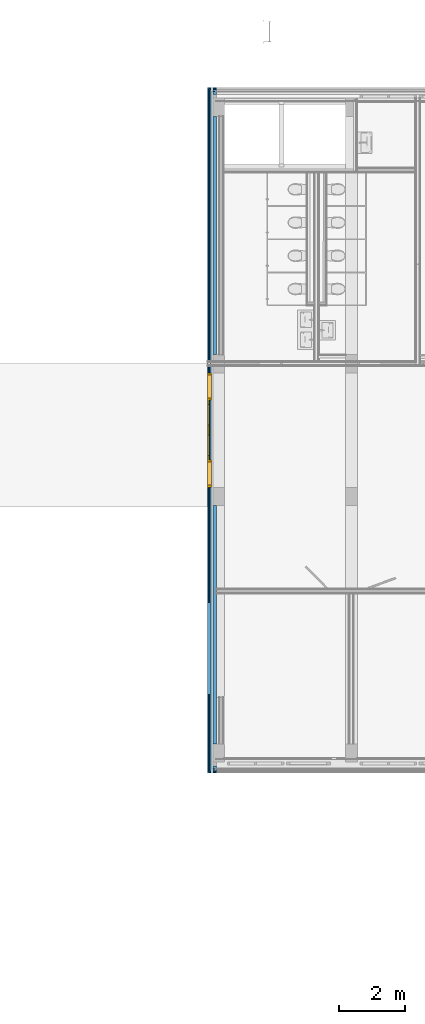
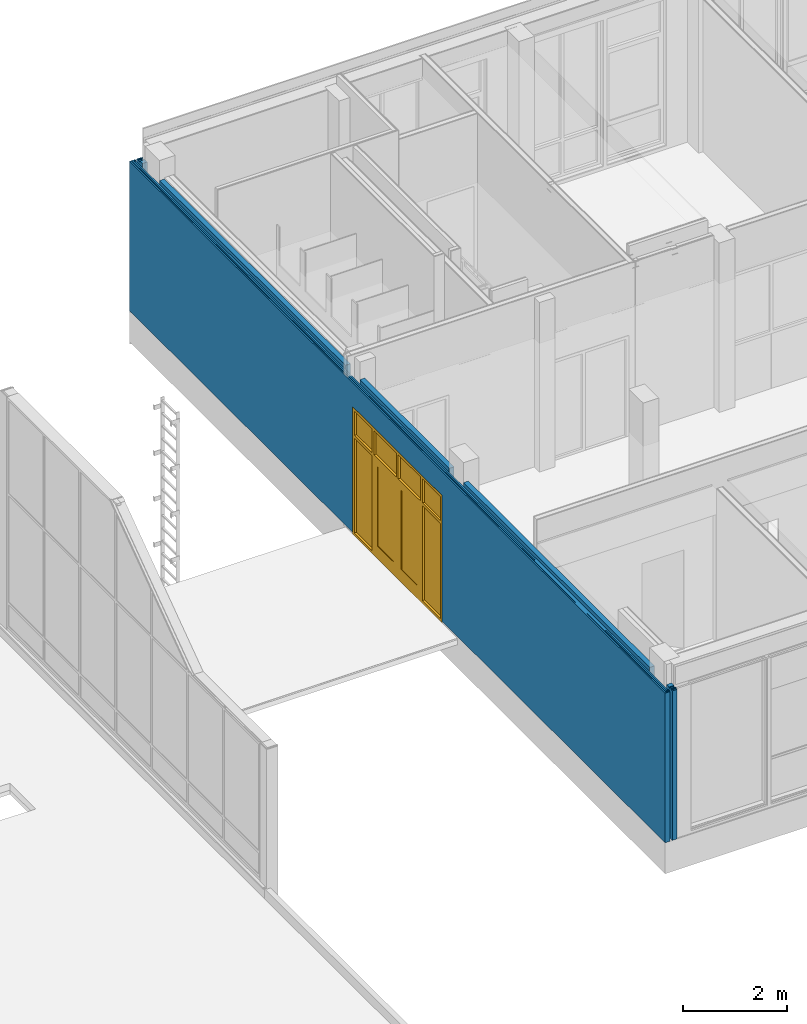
# One storey, part 37 of 54: 2 building element parts, 1 door, 1 opening, 1 element without a shape of its own.
"""IFC2X3 building model written with IfcOpenShell, lengths in millimetres."""

from ifc_helpers import new_model, entity, si_unit, converted_unit, derived_unit, money_unit, direction, frame, origin_with_axes, place, context, subcontext, project, spatial, open_shell, faceted_brep, surface_model, material, type_object, element, fill, aggregate, save


model = new_model("IFC2X3")

# Units and contexts
model_context = context("Model", 3, precision=0.01, world=origin_with_axes(), true_north=direction((0.0, 1.0)))
body_context = subcontext(model_context, "Body", "Model", "MODEL_VIEW")
ifc_project = project(units=[si_unit("LENGTHUNIT", "METRE", prefix="MILLI"), si_unit("AREAUNIT", "SQUARE_METRE"), si_unit("VOLUMEUNIT", "CUBIC_METRE"), converted_unit("PLANEANGLEUNIT", "DEGREE", entity("IfcPlaneAngleMeasure", 0.0174532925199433), si_unit("PLANEANGLEUNIT", "RADIAN"), dimensions=[0, 0, 0, 0, 0, 0, 0]), money_unit("EUR"), converted_unit("TIMEUNIT", "Year", entity("IfcTimeMeasure", 31557600.0), si_unit("TIMEUNIT", "SECOND"), dimensions=[0, 0, 1, 0, 0, 0, 0]), si_unit("MASSUNIT", "GRAM", prefix="KILO"), si_unit("THERMODYNAMICTEMPERATUREUNIT", "DEGREE_CELSIUS"), si_unit("LUMINOUSINTENSITYUNIT", "LUMEN"), si_unit("ENERGYUNIT", "JOULE", prefix="MEGA"), derived_unit("THERMALCONDUCTANCEUNIT", [(si_unit("POWERUNIT", "WATT"), 1), (si_unit("LENGTHUNIT", "METRE"), -1), (si_unit("THERMODYNAMICTEMPERATUREUNIT", "KELVIN"), -1)]), derived_unit("SPECIFICHEATCAPACITYUNIT", [(si_unit("ENERGYUNIT", "JOULE"), 1), (si_unit("MASSUNIT", "GRAM", prefix="KILO"), -1), (si_unit("THERMODYNAMICTEMPERATUREUNIT", "KELVIN"), -1)]), derived_unit("MASSDENSITYUNIT", [(si_unit("MASSUNIT", "GRAM", prefix="KILO"), 1), (si_unit("VOLUMEUNIT", "CUBIC_METRE"), -1)])], contexts=[model_context])

# Site, building, storey
site_placement = place(None, origin_with_axes())
site = spatial("IfcSite", under=ifc_project, at=site_placement, Name="<site naam>", CompositionType="ELEMENT")
building_placement = place(site_placement, origin_with_axes())
building = spatial("IfcBuilding", under=site, at=building_placement, Name="<Naam gebouw>", CompositionType="ELEMENT")
storey_placement = place(building_placement, frame((0.0, 0.0, 8500.0), z_axis=(0.0, 0.0, 1.0), x_axis=(1.0, 0.0, 0.0)))
storey = spatial("IfcBuildingStorey", under=building, at=storey_placement, Name="02 2e verdieping", CompositionType="ELEMENT", Elevation=8500.0)

# Door
door_style = type_object("IfcDoorStyle", Name="D2 bl zl2 27", ConstructionType="NOTDEFINED", OperationType="USERDEFINED", ParameterTakesPrecedence=False, Sizeable=False)
wall_placement = place(storey_placement, frame((11665.00000000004, 20324.99999757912, 0.0), z_axis=(0.0, 0.0, 1.0), x_axis=(0.0, -1.0, 0.0)))
opening_placement = place(wall_placement, frame((10324.99999757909, 0.0, 0.0), z_axis=(0.0, 0.0, 1.0), x_axis=(1.0, 0.0, 0.0)))
door_placement = place(opening_placement, frame((1724.999999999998, 0.0, 0.0), z_axis=(0.0, 0.0, 1.0), x_axis=(-1.0, 0.0, 0.0)))
door = element("IfcDoor", 1, at=door_placement, inside=storey, type_object=door_style, Name="21_BI-D-06_305", ObjectType="DOOR", OverallHeight=3000.0, OverallWidth=3450.0, context=body_context, shape_type="SurfaceModel", body=[
    faceted_brep([(0.0, 0.0, 0.0), (67.00000000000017, 0.0, 0.0), (67.00000000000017, -113.999999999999, 0.0), (0.0, -113.999999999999, 0.0), (0.0, 0.0, 2933.0), (67.00000000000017, 0.0, 2933.0), (67.00000000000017, 0.0, 2367.000000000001), (67.00000000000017, 0.0, 2300.000000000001), (67.00000000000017, 0.0, 67.00000000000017), (67.00000000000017, -113.999999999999, 67.00000000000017), (67.00000000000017, -113.999999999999, 2300.000000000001), (67.00000000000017, -113.999999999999, 2367.000000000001), (67.00000000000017, -113.999999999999, 2933.0), (0.0, -113.999999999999, 2933.0)], [[[0, 1, 2, 3]], [[0, 4, 5, 6, 7, 8, 1]], [[1, 8, 9, 2]], [[3, 2, 9, 10, 11, 12, 13]], [[4, 0, 3, 13]], [[5, 4, 13, 12]], [[6, 5, 12, 11]], [[7, 6, 11, 10]], [[8, 7, 10, 9]]]),
    faceted_brep([(824.9999999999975, -39.99999999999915, 2317.0), (824.9999999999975, 0.0, 2317.0), (824.9999999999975, 0.0, 2367.000000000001), (824.9999999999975, -113.999999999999, 2367.000000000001), (824.9999999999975, -113.999999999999, 2300.000000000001), (824.9999999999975, -39.99999999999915, 2300.000000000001), (807.9999999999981, -39.99999999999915, 2317.0), (807.9999999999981, 0.0, 2317.0), (807.9999999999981, 0.0, 0.0), (757.9999999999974, 0.0, 0.0), (757.9999999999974, 0.0, 67.00000000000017), (757.9999999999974, 0.0, 2300.000000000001), (757.9999999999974, 0.0, 2367.000000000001), (757.9999999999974, 0.0, 2933.0), (824.9999999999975, 0.0, 2933.0), (824.9999999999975, -114.0000000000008, 2933.0), (757.9999999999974, -114.0000000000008, 2933.0), (757.9999999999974, -113.999999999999, 2367.000000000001), (757.9999999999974, -113.999999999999, 2300.000000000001), (757.9999999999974, -113.999999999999, 67.00000000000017), (757.9999999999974, -113.999999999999, 0.0), (824.9999999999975, -113.999999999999, 0.0), (824.9999999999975, -39.99999999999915, 0.0), (807.9999999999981, -39.99999999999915, 0.0)], [[[0, 1, 2, 3, 4, 5]], [[1, 0, 6, 7]], [[7, 8, 9, 10, 11, 12, 13, 14, 2, 1]], [[14, 15, 3, 2]], [[4, 3, 15, 16, 17, 18, 19, 20, 21]], [[22, 5, 4, 21]], [[0, 5, 22, 23, 6]], [[8, 7, 6, 23]], [[23, 22, 21, 20, 9, 8]], [[9, 20, 19, 10]], [[10, 19, 18, 11]], [[11, 18, 17, 12]], [[12, 17, 16, 13]], [[13, 16, 15, 14]]]),
    faceted_brep([(67.00000000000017, 0.0, 67.00000000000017), (67.00000000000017, 0.0, 0.0), (67.00000000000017, -113.999999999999, 0.0), (67.00000000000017, -113.999999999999, 67.00000000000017), (757.9999999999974, 0.0, 67.00000000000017), (757.9999999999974, 0.0, 0.0), (757.9999999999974, -113.999999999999, 0.0), (757.9999999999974, -113.999999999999, 67.00000000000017)], [[[0, 1, 2, 3]], [[0, 4, 5, 1]], [[1, 5, 6, 2]], [[3, 2, 6, 7]], [[4, 0, 3, 7]], [[5, 4, 7, 6]]]),
    faceted_brep([(3449.999999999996, 0.0, 0.0), (3449.999999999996, 0.0, 2933.0), (3449.999999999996, -114.0000000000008, 2933.0), (3449.999999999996, -114.0000000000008, 0.0), (3382.999999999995, 0.0, 0.0), (3382.999999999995, 0.0, 67.00000000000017), (3382.999999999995, 0.0, 2300.000000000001), (3382.999999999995, 0.0, 2367.000000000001), (3382.999999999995, 0.0, 2933.0), (3382.999999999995, -114.0000000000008, 2933.0), (3382.999999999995, -114.0000000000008, 2367.000000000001), (3382.999999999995, -114.0000000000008, 2300.000000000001), (3382.999999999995, -114.0000000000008, 67.00000000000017), (3382.999999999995, -114.0000000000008, 0.0)], [[[0, 1, 2, 3]], [[0, 4, 5, 6, 7, 8, 1]], [[1, 8, 9, 2]], [[3, 2, 9, 10, 11, 12, 13]], [[4, 0, 3, 13]], [[5, 4, 13, 12]], [[6, 5, 12, 11]], [[7, 6, 11, 10]], [[8, 7, 10, 9]]]),
    faceted_brep([(2641.999999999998, 0.0, 2317.0), (2624.999999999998, 0.0, 2317.0), (2624.999999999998, 0.0, 2367.000000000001), (2624.999999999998, 0.0, 2933.0), (2691.999999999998, 0.0, 2933.0), (2691.999999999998, 0.0, 2367.000000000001), (2691.999999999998, 0.0, 2300.000000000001), (2691.999999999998, 0.0, 67.00000000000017), (2691.999999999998, 0.0, 0.0), (2641.999999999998, 0.0, 0.0), (2641.999999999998, -40.00000000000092, 2317.0), (2624.999999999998, -40.00000000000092, 2317.0), (2624.999999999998, -40.00000000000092, 2300.000000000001), (2624.999999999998, -114.0000000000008, 2300.000000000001), (2624.999999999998, -114.0000000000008, 2367.000000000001), (2624.999999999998, -114.0000000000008, 2933.0), (2691.999999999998, -114.0000000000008, 2933.0), (2691.999999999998, -114.0000000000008, 2367.000000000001), (2691.999999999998, -114.0000000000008, 2300.000000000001), (2691.999999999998, -114.0000000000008, 67.00000000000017), (2691.999999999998, -114.0000000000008, 0.0), (2641.999999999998, -40.00000000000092, 0.0), (2624.999999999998, -114.0000000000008, 0.0), (2624.999999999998, -40.00000000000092, 0.0)], [[[0, 1, 2, 3, 4, 5, 6, 7, 8, 9]], [[1, 0, 10, 11]], [[11, 12, 13, 14, 2, 1]], [[2, 14, 15, 3]], [[3, 15, 16, 4]], [[4, 16, 17, 5]], [[5, 17, 18, 6]], [[6, 18, 19, 7]], [[7, 19, 20, 8]], [[21, 9, 8, 20, 22, 23]], [[0, 9, 21, 10]], [[21, 23, 12, 11, 10]], [[12, 23, 22, 13]], [[19, 18, 17, 16, 15, 14, 13, 22, 20]]]),
    faceted_brep([(2691.999999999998, 0.0, 67.00000000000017), (2691.999999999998, 0.0, 0.0), (2691.999999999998, -114.0000000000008, 0.0), (2691.999999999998, -114.0000000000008, 67.00000000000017), (3382.999999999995, 0.0, 67.00000000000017), (3382.999999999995, 0.0, 0.0), (3382.999999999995, -114.0000000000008, 0.0), (3382.999999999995, -114.0000000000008, 67.00000000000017)], [[[0, 1, 2, 3]], [[0, 4, 5, 1]], [[1, 5, 6, 2]], [[3, 2, 6, 7]], [[4, 0, 3, 7]], [[5, 4, 7, 6]]]),
    faceted_brep([(0.0, 0.0, 3000.0), (0.0, 0.0, 2933.0), (0.0, -113.999999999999, 2933.0), (0.0, -113.999999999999, 3000.0), (3449.999999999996, 0.0, 3000.0), (3449.999999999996, 0.0, 2933.0), (3382.999999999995, 0.0, 2933.0), (2691.999999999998, 0.0, 2933.0), (2624.999999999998, 0.0, 2933.0), (824.9999999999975, 0.0, 2933.0), (757.9999999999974, 0.0, 2933.0), (67.00000000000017, 0.0, 2933.0), (67.00000000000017, -113.999999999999, 2933.0), (757.9999999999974, -114.0000000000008, 2933.0), (824.9999999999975, -114.0000000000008, 2933.0), (2624.999999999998, -114.0000000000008, 2933.0), (2691.999999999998, -114.0000000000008, 2933.0), (3382.999999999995, -114.0000000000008, 2933.0), (3449.999999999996, -114.0000000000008, 2933.0), (3449.999999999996, -114.0000000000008, 3000.0)], [[[0, 1, 2, 3]], [[0, 4, 5, 6, 7, 8, 9, 10, 11, 1]], [[1, 11, 12, 2]], [[3, 2, 12, 13, 14, 15, 16, 17, 18, 19]], [[4, 0, 3, 19]], [[5, 4, 19, 18]], [[6, 5, 18, 17]], [[7, 6, 17, 16]], [[8, 7, 16, 15]], [[9, 8, 15, 14]], [[10, 9, 14, 13]], [[11, 10, 13, 12]]]),
    faceted_brep([(67.00000000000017, 0.0, 2300.000000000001), (757.9999999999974, 0.0, 2300.000000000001), (757.9999999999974, -113.999999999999, 2300.000000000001), (67.00000000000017, -113.999999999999, 2300.000000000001), (67.00000000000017, 0.0, 2367.000000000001), (757.9999999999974, 0.0, 2367.000000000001), (757.9999999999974, -113.999999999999, 2367.000000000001), (67.00000000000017, -113.999999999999, 2367.000000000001)], [[[0, 1, 2, 3]], [[0, 4, 5, 1]], [[1, 5, 6, 2]], [[3, 2, 6, 7]], [[4, 0, 3, 7]], [[5, 4, 7, 6]]]),
    faceted_brep([(3382.999999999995, 0.0, 2367.000000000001), (2691.999999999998, 0.0, 2367.000000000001), (2691.999999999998, -114.0000000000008, 2367.000000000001), (3382.999999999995, -114.0000000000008, 2367.000000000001), (3382.999999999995, 0.0, 2300.000000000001), (2691.999999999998, 0.0, 2300.000000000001), (2691.999999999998, -114.0000000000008, 2300.000000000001), (3382.999999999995, -114.0000000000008, 2300.000000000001)], [[[0, 1, 2, 3]], [[0, 4, 5, 1]], [[1, 5, 6, 2]], [[3, 2, 6, 7]], [[4, 0, 3, 7]], [[5, 4, 7, 6]]]),
    faceted_brep([(2624.999999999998, -40.00000000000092, 2317.0), (2624.999999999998, 0.0, 2317.0), (2624.999999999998, 0.0, 2367.000000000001), (2624.999999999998, -114.0000000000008, 2367.000000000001), (2624.999999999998, -114.0000000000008, 2300.000000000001), (2624.999999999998, -40.00000000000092, 2300.000000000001), (824.9999999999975, -39.99999999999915, 2317.0), (824.9999999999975, 0.0, 2317.0), (824.9999999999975, 0.0, 2367.000000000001), (824.9999999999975, -113.999999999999, 2367.000000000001), (824.9999999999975, -113.999999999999, 2300.000000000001), (824.9999999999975, -39.99999999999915, 2300.000000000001)], [[[0, 1, 2, 3, 4, 5]], [[1, 0, 6, 7]], [[1, 7, 8, 2]], [[8, 9, 3, 2]], [[10, 4, 3, 9]], [[11, 5, 4, 10]], [[0, 5, 11, 6]], [[6, 11, 10, 9, 8, 7]]]),
    faceted_brep([(2641.999999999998, 0.0, 300.0000000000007), (2641.999999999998, -40.00000000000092, 300.0000000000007), (2491.999999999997, -40.00000000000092, 300.0000000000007), (2491.999999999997, 0.0, 300.0000000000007), (2641.999999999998, 0.0, 2167.0), (2641.999999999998, -40.00000000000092, 2167.0), (2491.999999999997, -40.00000000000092, 2167.0), (2491.999999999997, 0.0, 2167.0)], [[[0, 1, 2, 3]], [[4, 5, 1, 0]], [[1, 5, 6, 2]], [[3, 2, 6, 7]], [[0, 3, 7, 4]], [[7, 6, 5, 4]]]),
    faceted_brep([(1724.999999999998, 0.0, 300.0000000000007), (1724.999999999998, -40.00000000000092, 300.0000000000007), (1724.999999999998, -40.00000000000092, 2167.0), (1724.999999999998, 0.0, 2167.0), (1874.999999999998, 0.0, 300.0000000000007), (1874.999999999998, -40.00000000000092, 300.0000000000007), (1874.999999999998, -40.00000000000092, 2167.0), (1874.999999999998, 0.0, 2167.0)], [[[0, 1, 2, 3]], [[4, 5, 1, 0]], [[1, 5, 6, 2]], [[3, 2, 6, 7]], [[0, 3, 7, 4]], [[7, 6, 5, 4]]]),
    faceted_brep([(2641.999999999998, 0.0, 0.0), (2641.999999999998, -40.00000000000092, 0.0), (1724.999999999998, -39.99999999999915, 0.0), (1724.999999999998, 0.0, 0.0), (2641.999999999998, 0.0, 300.0000000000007), (2641.999999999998, -40.00000000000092, 300.0000000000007), (2491.999999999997, -40.00000000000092, 300.0000000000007), (1874.999999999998, -40.00000000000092, 300.0000000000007), (1724.999999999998, -40.00000000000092, 300.0000000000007), (1724.999999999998, 0.0, 300.0000000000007), (1874.999999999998, 0.0, 300.0000000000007), (2491.999999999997, 0.0, 300.0000000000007)], [[[0, 1, 2, 3]], [[4, 5, 1, 0]], [[1, 5, 6, 7, 8, 2]], [[3, 2, 8, 9]], [[0, 3, 9, 10, 11, 4]], [[11, 6, 5, 4]], [[10, 7, 6, 11]], [[9, 8, 7, 10]]]),
    faceted_brep([(2641.999999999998, 0.0, 2317.0), (2641.999999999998, -40.00000000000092, 2317.0), (2641.999999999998, -40.00000000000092, 2167.0), (2641.999999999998, 0.0, 2167.0), (1724.999999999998, 0.0, 2317.0), (1724.999999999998, -40.00000000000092, 2317.0), (1724.999999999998, -40.00000000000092, 2167.0), (1874.999999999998, -40.00000000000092, 2167.0), (2491.999999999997, -40.00000000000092, 2167.0), (2491.999999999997, 0.0, 2167.0), (1874.999999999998, 0.0, 2167.0), (1724.999999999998, 0.0, 2167.0)], [[[0, 1, 2, 3]], [[4, 5, 1, 0]], [[1, 5, 6, 7, 8, 2]], [[3, 2, 8, 9]], [[0, 3, 9, 10, 11, 4]], [[11, 6, 5, 4]], [[10, 7, 6, 11]], [[9, 8, 7, 10]]]),
    surface_model("IfcShellBasedSurfaceModel", [(2491.999999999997, -14.00000000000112, 300.0000000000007), (1874.999999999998, -13.99999999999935, 300.0000000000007), (1874.999999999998, -13.99999999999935, 2167.0), (2491.999999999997, -14.00000000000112, 2167.0)], [open_shell([[[0, 1, 2, 3]]])]),
    surface_model("IfcShellBasedSurfaceModel", [(2491.999999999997, -25.9999999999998, 300.0000000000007), (2491.999999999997, -25.9999999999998, 2167.0), (1874.999999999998, -25.9999999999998, 2167.0), (1874.999999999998, -25.9999999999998, 300.0000000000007)], [open_shell([[[0, 1, 2, 3]]])]),
    faceted_brep([(807.9999999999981, 0.0, 300.0000000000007), (957.9999999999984, 0.0, 300.0000000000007), (957.9999999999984, -39.99999999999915, 300.0000000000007), (807.9999999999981, -39.99999999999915, 300.0000000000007), (807.9999999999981, 0.0, 2167.0), (957.9999999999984, 0.0, 2167.0), (957.9999999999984, -39.99999999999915, 2167.0), (807.9999999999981, -39.99999999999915, 2167.0)], [[[0, 1, 2, 3]], [[0, 4, 5, 1]], [[1, 5, 6, 2]], [[3, 2, 6, 7]], [[4, 0, 3, 7]], [[5, 4, 7, 6]]]),
    faceted_brep([(1724.999999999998, 0.0, 300.0000000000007), (1724.999999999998, 0.0, 2167.0), (1724.999999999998, -40.00000000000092, 2167.0), (1724.999999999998, -40.00000000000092, 300.0000000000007), (1574.999999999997, 0.0, 300.0000000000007), (1574.999999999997, 0.0, 2167.0), (1574.999999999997, -40.00000000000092, 2167.0), (1574.999999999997, -39.99999999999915, 300.0000000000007)], [[[0, 1, 2, 3]], [[0, 4, 5, 1]], [[1, 5, 6, 2]], [[3, 2, 6, 7]], [[4, 0, 3, 7]], [[5, 4, 7, 6]]]),
    faceted_brep([(807.9999999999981, 0.0, 0.0), (1724.999999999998, 0.0, 0.0), (1724.999999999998, -39.99999999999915, 0.0), (807.9999999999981, -39.99999999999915, 0.0), (807.9999999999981, 0.0, 300.0000000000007), (957.9999999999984, 0.0, 300.0000000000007), (1574.999999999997, 0.0, 300.0000000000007), (1724.999999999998, 0.0, 300.0000000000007), (1724.999999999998, -40.00000000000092, 300.0000000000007), (1574.999999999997, -39.99999999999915, 300.0000000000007), (957.9999999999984, -39.99999999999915, 300.0000000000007), (807.9999999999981, -39.99999999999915, 300.0000000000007)], [[[0, 1, 2, 3]], [[0, 4, 5, 6, 7, 1]], [[1, 7, 8, 2]], [[3, 2, 8, 9, 10, 11]], [[4, 0, 3, 11]], [[5, 4, 11, 10]], [[6, 5, 10, 9]], [[7, 6, 9, 8]]]),
    faceted_brep([(807.9999999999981, 0.0, 2317.0), (807.9999999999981, 0.0, 2167.0), (807.9999999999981, -39.99999999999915, 2167.0), (807.9999999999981, -39.99999999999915, 2317.0), (1724.999999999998, 0.0, 2317.0), (1724.999999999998, 0.0, 2167.0), (1574.999999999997, 0.0, 2167.0), (957.9999999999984, 0.0, 2167.0), (957.9999999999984, -39.99999999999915, 2167.0), (1574.999999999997, -40.00000000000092, 2167.0), (1724.999999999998, -40.00000000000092, 2167.0), (1724.999999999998, -40.00000000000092, 2317.0)], [[[0, 1, 2, 3]], [[0, 4, 5, 6, 7, 1]], [[1, 7, 8, 2]], [[3, 2, 8, 9, 10, 11]], [[4, 0, 3, 11]], [[5, 4, 11, 10]], [[6, 5, 10, 9]], [[7, 6, 9, 8]]]),
    surface_model("IfcShellBasedSurfaceModel", [(957.9999999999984, -13.99999999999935, 300.0000000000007), (957.9999999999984, -13.99999999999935, 2167.0), (1574.999999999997, -13.99999999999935, 2167.0), (1574.999999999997, -13.99999999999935, 300.0000000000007)], [open_shell([[[0, 1, 2, 3]]])]),
    surface_model("IfcShellBasedSurfaceModel", [(957.9999999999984, -25.9999999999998, 300.0000000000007), (1574.999999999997, -25.9999999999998, 300.0000000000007), (1574.999999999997, -25.9999999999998, 2167.0), (957.9999999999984, -25.9999999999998, 2167.0)], [open_shell([[[0, 1, 2, 3]]])]),
    surface_model("IfcShellBasedSurfaceModel", [(67.00000000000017, -60.0000000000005, 2367.000000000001), (757.9999999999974, -60.0000000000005, 2367.000000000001), (757.9999999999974, -60.0000000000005, 2933.0), (67.00000000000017, -60.0000000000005, 2933.0)], [open_shell([[[0, 1, 2, 3]]])]),
    surface_model("IfcShellBasedSurfaceModel", [(67.00000000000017, -48.00000000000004, 2367.000000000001), (67.00000000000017, -48.00000000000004, 2933.0), (757.9999999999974, -48.00000000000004, 2933.0), (757.9999999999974, -48.00000000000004, 2367.000000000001)], [open_shell([[[0, 1, 2, 3]]])]),
    surface_model("IfcShellBasedSurfaceModel", [(1691.499999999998, -60.0000000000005, 2367.000000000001), (1691.499999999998, -60.0000000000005, 2933.0), (824.9999999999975, -60.0000000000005, 2933.0), (824.9999999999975, -60.0000000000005, 2367.000000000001)], [open_shell([[[0, 1, 2, 3]]])]),
    surface_model("IfcShellBasedSurfaceModel", [(1691.499999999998, -48.00000000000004, 2367.000000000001), (824.9999999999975, -48.00000000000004, 2367.000000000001), (824.9999999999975, -48.00000000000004, 2933.0), (1691.499999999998, -48.00000000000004, 2933.0)], [open_shell([[[0, 1, 2, 3]]])]),
    surface_model("IfcShellBasedSurfaceModel", [(2624.999999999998, -60.0000000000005, 2367.000000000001), (2624.999999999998, -60.0000000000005, 2933.0), (1758.499999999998, -60.0000000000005, 2933.0), (1758.499999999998, -60.0000000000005, 2367.000000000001)], [open_shell([[[0, 1, 2, 3]]])]),
    surface_model("IfcShellBasedSurfaceModel", [(2624.999999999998, -48.00000000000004, 2367.000000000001), (1758.499999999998, -48.00000000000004, 2367.000000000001), (1758.499999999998, -48.00000000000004, 2933.0), (2624.999999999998, -48.00000000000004, 2933.0)], [open_shell([[[0, 1, 2, 3]]])]),
    faceted_brep([(1691.499999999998, -114.0000000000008, 2367.000000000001), (1691.499999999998, 0.0, 2367.000000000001), (1758.499999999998, 0.0, 2367.000000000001), (1758.499999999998, -114.0000000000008, 2367.000000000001), (1691.499999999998, -114.0000000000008, 2933.0), (1691.499999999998, 0.0, 2933.0), (1758.499999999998, 0.0, 2933.0), (1758.499999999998, -114.0000000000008, 2933.0)], [[[0, 1, 2, 3]], [[4, 5, 1, 0]], [[1, 5, 6, 2]], [[3, 2, 6, 7]], [[0, 3, 7, 4]], [[7, 6, 5, 4]]]),
    surface_model("IfcShellBasedSurfaceModel", [(2691.999999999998, -60.0000000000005, 2367.000000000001), (3382.999999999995, -60.0000000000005, 2367.000000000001), (3382.999999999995, -60.0000000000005, 2933.0), (2691.999999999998, -60.0000000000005, 2933.0)], [open_shell([[[0, 1, 2, 3]]])]),
    surface_model("IfcShellBasedSurfaceModel", [(2691.999999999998, -48.00000000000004, 2367.000000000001), (2691.999999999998, -48.00000000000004, 2933.0), (3382.999999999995, -48.00000000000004, 2933.0), (3382.999999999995, -48.00000000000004, 2367.000000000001)], [open_shell([[[0, 1, 2, 3]]])]),
    surface_model("IfcShellBasedSurfaceModel", [(67.00000000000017, -59.99999999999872, 67.00000000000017), (757.9999999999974, -60.0000000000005, 67.00000000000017), (757.9999999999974, -60.0000000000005, 2300.000000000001), (67.00000000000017, -60.0000000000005, 2300.000000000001)], [open_shell([[[0, 1, 2, 3]]])]),
    surface_model("IfcShellBasedSurfaceModel", [(67.00000000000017, -48.00000000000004, 67.00000000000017), (67.00000000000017, -48.00000000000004, 2300.000000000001), (757.9999999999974, -48.00000000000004, 2300.000000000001), (757.9999999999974, -48.00000000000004, 67.00000000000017)], [open_shell([[[0, 1, 2, 3]]])]),
    surface_model("IfcShellBasedSurfaceModel", [(2691.999999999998, -60.0000000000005, 67.00000000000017), (3382.999999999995, -60.0000000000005, 67.00000000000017), (3382.999999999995, -60.0000000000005, 2300.000000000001), (2691.999999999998, -60.0000000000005, 2300.000000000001)], [open_shell([[[0, 1, 2, 3]]])]),
    surface_model("IfcShellBasedSurfaceModel", [(2691.999999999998, -48.00000000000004, 67.00000000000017), (2691.999999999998, -48.00000000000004, 2300.000000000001), (3382.999999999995, -48.00000000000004, 2300.000000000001), (3382.999999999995, -48.00000000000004, 67.00000000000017)], [open_shell([[[0, 1, 2, 3]]])]),
])

# Wall, opening
wall_type = type_object("IfcWallType", Name="metselwerk-lucht-metselwerk 270 270", PredefinedType="NOTDEFINED")
wall = element("IfcWall", 2, at=wall_placement, inside=storey, type_object=wall_type, Name="21_Binnenwand_metselwerk-lucht-metselwerk")
opening = element("IfcOpeningElement", 3, at=opening_placement, cuts=wall, Name="21_BI-D-06_305", context=body_context, shape_type="Brep", body=[
    faceted_brep([(1724.999999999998, 271.0000000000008, 3000.0), (1724.999999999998, 271.0000000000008, 0.0), (-1724.999999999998, 271.0000000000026, 0.0), (-1724.999999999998, 271.0000000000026, 3000.0), (1724.999999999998, -1.000000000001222, 3000.0), (1724.999999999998, -1.000000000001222, 0.0), (-1724.999999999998, -0.9999999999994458, 0.0), (-1724.999999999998, -0.9999999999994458, 3000.0)], [[[0, 1, 2, 3]], [[4, 5, 1, 0]], [[5, 6, 2, 1]], [[6, 7, 3, 2]], [[7, 4, 0, 3]], [[6, 5, 4, 7]]]),
])

fill(opening, door)

# Building element part
ifc_material_1 = material(Name="metselwerk C")
building_element_part_1_placement = place(wall_placement, origin_with_axes())
building_element_part_1 = element("IfcBuildingElementPart", 4, at=building_element_part_1_placement, material=ifc_material_1, Name="metselwerk C", context=body_context, shape_type="Brep", body=[
    faceted_brep([(20432.67473122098, 269.9999540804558, 0.0), (20432.67473122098, 269.9999540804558, 3580.00000396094), (20529.9999968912, 270.0000000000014, 3580.00000396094), (20529.99999689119, 269.9999999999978, 3560.000112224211), (20590.00000149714, 269.9999999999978, 3560.000112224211), (20590.00000149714, 270.0000000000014, 3580.00000396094), (20619.99999247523, 270.0000000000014, 3580.00000396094), (20619.99999247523, 270.0000000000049, 3560.000112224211), (20649.9999947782, 270.0000000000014, 3560.000112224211), (20649.99999515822, 270.0000000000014, 40.00000611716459), (20529.99999727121, 269.9999999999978, 40.00000611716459), (20529.99999727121, 269.9999999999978, 70.00000842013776), (20489.99999042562, 270.0000000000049, 70.00000842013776), (20489.99999042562, 270.0000000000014, 0.0), (20432.67473122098, 159.9999999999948, 3580.00000396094), (20432.67473122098, 159.9999999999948, 0.0), (20529.9999968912, 160.0000000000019, 3580.00000396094), (20529.99999689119, 159.9999999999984, 3560.000112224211), (20590.00000149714, 159.9999999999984, 3560.000112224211), (20590.00000149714, 160.0000000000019, 3580.00000396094), (20619.99999247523, 160.0000000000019, 3580.00000396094), (20619.99999247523, 160.0000000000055, 3560.000112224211), (20649.9999947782, 160.0000000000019, 3560.000112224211), (20649.99999515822, 160.0000000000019, 40.00000611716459), (20529.99999727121, 159.9999999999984, 40.00000611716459), (20529.99999727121, 159.9999999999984, 70.00000842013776), (20489.99999042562, 160.0000071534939, 70.00000842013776), (20489.99999042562, 160.0000071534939, 0.0)], [[[0, 1, 2, 3, 4, 5, 6, 7, 8, 9, 10, 11, 12, 13]], [[14, 1, 0, 15]], [[1, 14, 16, 2]], [[17, 3, 2, 16]], [[18, 4, 3, 17]], [[18, 19, 5, 4]], [[6, 5, 19, 20]], [[21, 7, 6, 20]], [[22, 8, 7, 21]], [[22, 23, 9, 8]], [[24, 10, 9, 23]], [[25, 11, 10, 24]], [[26, 12, 11, 25]], [[27, 13, 12, 26]], [[15, 0, 13, 27]], [[14, 15, 27, 26, 25, 24, 23, 22, 21, 20, 19, 18, 17, 16]]]),
    faceted_brep([(217.3253485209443, 159.999999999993, 3580.00000396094), (217.3253485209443, 269.9999540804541, 3580.00000396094), (119.9999978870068, 270.0000000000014, 3580.00000396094), (119.9999978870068, 160.0000000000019, 3580.00000396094), (217.3253485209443, 269.9999540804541, 0.0), (217.3253485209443, 159.999999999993, 0.0), (160.0000047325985, 270.0000000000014, 0.0), (160.0000047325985, 269.9999999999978, 19.99999999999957), (119.9999978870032, 269.9999999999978, 19.99999999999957), (119.9999978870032, 270.0000000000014, 0.0), (0.0, 270.0000000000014, 0.0), (0.0, 270.0000000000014, 3560.000062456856), (30.00000230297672, 269.9999999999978, 3560.000062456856), (30.00000230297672, 270.0000000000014, 3580.00000396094), (59.99999328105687, 270.0000000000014, 3580.00000396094), (59.99999328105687, 269.9999999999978, 3560.000062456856), (119.9999978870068, 269.9999999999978, 3560.000062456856), (119.9999978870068, 159.9999999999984, 3560.000062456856), (59.99999328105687, 159.9999999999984, 3560.000062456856), (59.99999328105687, 160.0000000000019, 3580.00000396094), (30.00000230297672, 160.0000000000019, 3580.00000396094), (30.00000230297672, 159.9999999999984, 3560.000062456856), (0.0, 160.0000000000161, 3560.000062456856), (0.0, 160.0000000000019, 0.0), (119.9999978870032, 160.0000000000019, 0.0), (119.9999978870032, 159.9999999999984, 19.99999999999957), (160.0000047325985, 160.0000071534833, 19.99999999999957), (160.0000047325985, 160.0000071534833, 0.0)], [[[0, 1, 2, 3]], [[4, 1, 0, 5]], [[1, 4, 6, 7, 8, 9, 10, 11, 12, 13, 14, 15, 16, 2]], [[17, 3, 2, 16]], [[5, 0, 3, 17, 18, 19, 20, 21, 22, 23, 24, 25, 26, 27]], [[4, 5, 27, 6]], [[26, 7, 6, 27]], [[25, 8, 7, 26]], [[24, 9, 8, 25]], [[10, 9, 24, 23]], [[23, 22, 11, 10]], [[21, 12, 11, 22]], [[21, 20, 13, 12]], [[14, 13, 20, 19]], [[18, 15, 14, 19]], [[17, 16, 15, 18]]]),
    faceted_brep([(19774.9999975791, 159.9999999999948, 3580.00000396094), (19774.9999975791, 269.9999540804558, 3580.00000396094), (12599.9999975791, 269.9999540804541, 3580.00000396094), (12599.9999975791, 160.0000000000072, 3580.00000396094), (19774.9999975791, 269.9999540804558, 0.0), (19774.9999975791, 159.9999999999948, 0.0), (12599.9999975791, 269.9999540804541, 0.0), (12599.9999975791, 160.0000000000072, 0.0)], [[[0, 1, 2, 3]], [[4, 1, 0, 5]], [[1, 4, 6, 2]], [[3, 2, 6, 7]], [[5, 0, 3, 7]], [[4, 5, 7, 6]]]),
    faceted_brep([(8049.9999975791, 160.0000000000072, 3580.00000396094), (8049.9999975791, 269.9999540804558, 3580.00000396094), (874.9999975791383, 269.9999540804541, 3580.00000396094), (874.9999975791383, 160.0000000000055, 3580.00000396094), (8049.9999975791, 269.9999540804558, 0.0), (8049.9999975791, 160.0000000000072, 0.0), (874.9999975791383, 269.9999540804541, 0.0), (874.9999975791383, 160.0000000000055, 0.0)], [[[0, 1, 2, 3]], [[4, 1, 0, 5]], [[1, 4, 6, 2]], [[3, 2, 6, 7]], [[5, 0, 3, 7]], [[4, 5, 7, 6]]]),
    faceted_brep([(12049.9999975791, 160.0000000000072, 3580.00000396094), (12049.9999975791, 269.9999540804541, 3580.00000396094), (8599.9999975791, 269.9999540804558, 3580.00000396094), (8599.9999975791, 160.0000000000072, 3580.00000396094), (12049.9999975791, 269.9999540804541, 0.0), (12049.9999975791, 160.0000000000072, 0.0), (8599.9999975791, 269.9999540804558, 0.0), (8599.9999975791, 160.0000000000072, 0.0)], [[[0, 1, 2, 3]], [[4, 1, 0, 5]], [[1, 4, 6, 2]], [[3, 2, 6, 7]], [[5, 0, 3, 7]], [[4, 5, 7, 6]]]),
])

ifc_material_2 = material(Name="metselwerk AFW")
building_element_part_2_placement = place(wall_placement, origin_with_axes())
building_element_part_2 = element("IfcBuildingElementPart", 5, at=building_element_part_2_placement, material=ifc_material_2, Name="metselwerk AFW", context=body_context, shape_type="Brep", body=[
    faceted_brep([(109.9999975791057, 109.9999999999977, 40.00000611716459), (109.9999975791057, 109.9999999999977, 0.0), (0.0, 109.9999999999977, 0.0), (0.0, 110.0000000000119, 3560.000062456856), (30.00000230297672, 109.9999999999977, 3560.000062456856), (30.00000230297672, 109.9999999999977, 3580.00000396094), (59.99999328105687, 109.9999999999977, 3580.00000396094), (59.99999328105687, 109.9999999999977, 3560.000062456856), (20590.00000149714, 110.0000000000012, 3560.000112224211), (20590.00000149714, 110.0000000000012, 3580.00000396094), (20619.99999247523, 110.0000000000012, 3580.00000396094), (20619.99999247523, 110.0000000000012, 3560.000112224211), (20649.9999947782, 110.0000000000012, 3560.000112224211), (20649.99999515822, 110.0000000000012, 40.00000611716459), (0.0, 2.420891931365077e-06, 40.00000611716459), (0.0, 2.420891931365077e-06, 0.0), (0.0, 2.420888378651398e-06, 3560.000062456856), (20649.99999477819, 2.420895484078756e-06, 3560.000062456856), (20619.99999247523, 30.00000472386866, 3560.000062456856), (30.00000230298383, 30.00000472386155, 3560.000062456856), (30.00000230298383, 30.00000472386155, 3580.00000396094), (15524.99999757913, 59.99999570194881, 3580.00000396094), (59.99999328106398, 59.9999957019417, 3580.00000396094), (15524.99999757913, 30.00000472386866, 3580.00000396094), (59.99999328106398, 59.9999957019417, 3560.000062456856), (20590.00000149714, 59.99999570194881, 3560.000062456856), (20590.00000149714, 59.99999570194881, 3580.00000396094), (18274.60197921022, 59.99999570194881, 3580.00000396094), (18274.60197921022, 30.00000472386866, 3580.00000396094), (20619.99999247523, 30.00000472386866, 3580.00000396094), (20649.99999515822, 2.420899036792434e-06, 40.00000611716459), (18274.60197921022, 30.00000472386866, 3569.998748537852), (15524.99999757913, 30.00000472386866, 3569.998748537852), (15524.99999757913, 59.99999570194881, 3569.998748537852), (18274.60197921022, 59.99999570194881, 3569.998748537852)], [[[0, 1, 2, 3, 4, 5, 6, 7, 8, 9, 10, 11, 12, 13]], [[1, 0, 14, 15]], [[1, 15, 2]], [[15, 14, 16, 3, 2]], [[16, 17, 12, 11, 18, 19, 4, 3]], [[19, 20, 5, 4]], [[21, 22, 6, 5, 20, 23]], [[22, 24, 7, 6]], [[24, 25, 8, 7]], [[25, 26, 9, 8]], [[26, 27, 28, 29, 10, 9]], [[29, 18, 11, 10]], [[30, 13, 12, 17]], [[30, 14, 0, 13]], [[14, 30, 17, 16]], [[23, 20, 19, 18, 29, 28, 31, 32]], [[24, 22, 21, 33, 34, 27, 26, 25]], [[33, 21, 23, 32]], [[27, 34, 31, 28]], [[34, 33, 32, 31]]]),
])

aggregate(wall, [building_element_part_1, building_element_part_2])

save(model, "model.ifc")
